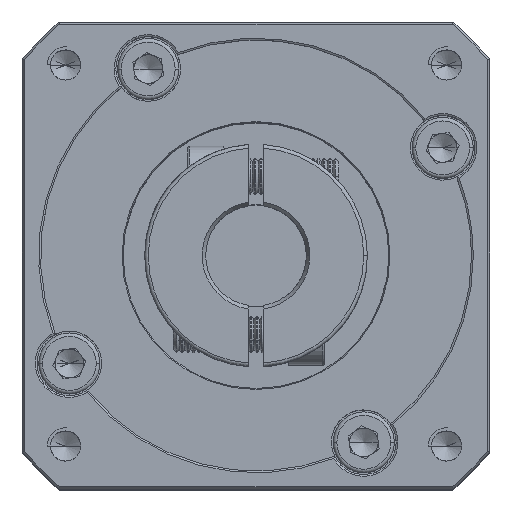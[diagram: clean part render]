
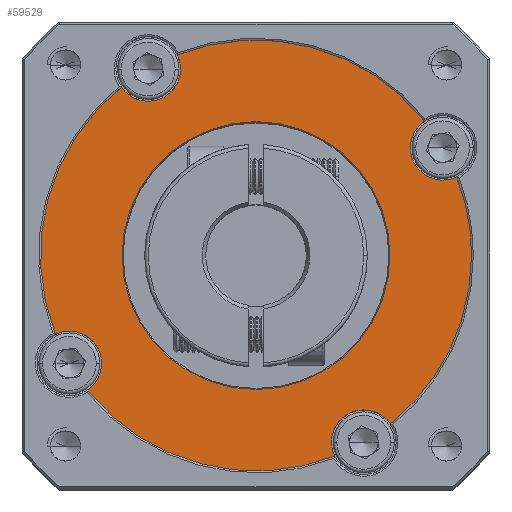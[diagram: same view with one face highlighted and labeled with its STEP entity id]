
A CAD part, top view. The second image highlights one B-rep face of the part: STEP entity #59529.
In plain terms, the highlighted planar face has unit normal (0, 0, 1).
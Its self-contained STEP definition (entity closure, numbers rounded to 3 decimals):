
#601 = VERTEX_POINT ( 'NONE', #96312 ) ;
#1448 = AXIS2_PLACEMENT_3D ( 'NONE', #22615, #81851, #31043 ) ;
#1845 = VERTEX_POINT ( 'NONE', #52218 ) ;
#2023 = EDGE_CURVE ( 'NONE', #29477, #79942, #91380, .T. ) ;
#3567 = CARTESIAN_POINT ( 'NONE',  ( -53.651, 39.886, 31.124 ) ) ;
#3653 = AXIS2_PLACEMENT_3D ( 'NONE', #3567, #62904, #12106 ) ;
#4628 = AXIS2_PLACEMENT_3D ( 'NONE', #75418, #24626, #83875 ) ;
#5073 = CIRCLE ( 'NONE', #29460, 4.5 ) ;
#5751 = DIRECTION ( 'NONE',  ( 0., 0., 1. ) ) ;
#8137 = DIRECTION ( 'NONE',  ( 0., 0., 1. ) ) ;
#11085 = CARTESIAN_POINT ( 'NONE',  ( -42.706, 11.954, 31.124 ) ) ;
#11442 = AXIS2_PLACEMENT_3D ( 'NONE', #16593, #75926, #25126 ) ;
#12106 = DIRECTION ( 'NONE',  ( 1., 0., 0. ) ) ;
#13304 = CIRCLE ( 'NONE', #83137, 4.5 ) ;
#14680 = CARTESIAN_POINT ( 'NONE',  ( -64.151, 65.867, 31.124 ) ) ;
#15265 = VERTEX_POINT ( 'NONE', #90781 ) ;
#15553 = CIRCLE ( 'NONE', #1448, 4.5 ) ;
#16530 = ORIENTED_EDGE ( 'NONE', *, *, #59345, .T. ) ;
#16593 = CARTESIAN_POINT ( 'NONE',  ( -53.651, 39.886, 31.124 ) ) ;
#17994 = AXIS2_PLACEMENT_3D ( 'NONE', #86319, #35565, #94807 ) ;
#19318 = ORIENTED_EDGE ( 'NONE', *, *, #2023, .F. ) ;
#20062 = VERTEX_POINT ( 'NONE', #101177 ) ;
#20287 = PLANE ( 'NONE',  #3653 ) ;
#20638 = VERTEX_POINT ( 'NONE', #40943 ) ;
#20746 = EDGE_CURVE ( 'NONE', #20638, #106895, #60833, .T. ) ;
#22615 = CARTESIAN_POINT ( 'NONE',  ( -79.631, 24.886, 31.124 ) ) ;
#23549 = AXIS2_PLACEMENT_3D ( 'NONE', #58983, #8137, #67523 ) ;
#24626 = DIRECTION ( 'NONE',  ( 0., 0., 1. ) ) ;
#25126 = DIRECTION ( 'NONE',  ( 1., 0., 0. ) ) ;
#26729 = VERTEX_POINT ( 'NONE', #14680 ) ;
#26969 = CARTESIAN_POINT ( 'NONE',  ( -27.67, 54.886, 31.124 ) ) ;
#27217 = CIRCLE ( 'NONE', #23549, 4.5 ) ;
#27637 = DIRECTION ( 'NONE',  ( 0., 0., 1. ) ) ;
#29316 = CARTESIAN_POINT ( 'NONE',  ( -68.651, 65.867, 31.124 ) ) ;
#29460 = AXIS2_PLACEMENT_3D ( 'NONE', #82043, #31231, #90490 ) ;
#29477 = VERTEX_POINT ( 'NONE', #57609 ) ;
#29715 = AXIS2_PLACEMENT_3D ( 'NONE', #31219, #90474, #39774 ) ;
#29843 = DIRECTION ( 'NONE',  ( 0., 0., 1. ) ) ;
#31043 = DIRECTION ( 'NONE',  ( 1., 0., 0. ) ) ;
#31219 = CARTESIAN_POINT ( 'NONE',  ( -53.651, 39.886, 31.124 ) ) ;
#31231 = DIRECTION ( 'NONE',  ( 0., 0., 1. ) ) ;
#31385 = AXIS2_PLACEMENT_3D ( 'NONE', #43910, #103050, #52453 ) ;
#32044 = EDGE_CURVE ( 'NONE', #20638, #93637, #59761, .T. ) ;
#33804 = CARTESIAN_POINT ( 'NONE',  ( -75.131, 24.886, 31.124 ) ) ;
#34424 = ORIENTED_EDGE ( 'NONE', *, *, #101568, .T. ) ;
#35280 = VERTEX_POINT ( 'NONE', #95623 ) ;
#35478 = DIRECTION ( 'NONE',  ( 1., 0., 0. ) ) ;
#35565 = DIRECTION ( 'NONE',  ( 0., 0., -1. ) ) ;
#35968 = CIRCLE ( 'NONE', #4628, 4.5 ) ;
#36934 = CARTESIAN_POINT ( 'NONE',  ( -38.651, 13.905, 31.124 ) ) ;
#37098 = ORIENTED_EDGE ( 'NONE', *, *, #20746, .T. ) ;
#37840 = DIRECTION ( 'NONE',  ( 1., 0., 0. ) ) ;
#39702 = FACE_OUTER_BOUND ( 'NONE', #95938, .T. ) ;
#39720 = AXIS2_PLACEMENT_3D ( 'NONE', #56582, #5751, #65110 ) ;
#39774 = DIRECTION ( 'NONE',  ( 1., 0., 0. ) ) ;
#40943 = CARTESIAN_POINT ( 'NONE',  ( -30.206, 58.603, 31.124 ) ) ;
#41566 = CIRCLE ( 'NONE', #17994, 18.644 ) ;
#43910 = CARTESIAN_POINT ( 'NONE',  ( -53.651, 39.886, 31.124 ) ) ;
#45535 = DIRECTION ( 'NONE',  ( 1., 0., 0. ) ) ;
#47048 = EDGE_CURVE ( 'NONE', #601, #1845, #41566, .T. ) ;
#48719 = CIRCLE ( 'NONE', #29715, 30. ) ;
#48721 = CARTESIAN_POINT ( 'NONE',  ( -53.651, 39.886, 31.124 ) ) ;
#49009 = EDGE_CURVE ( 'NONE', #95888, #79860, #15553, .T. ) ;
#49111 = ORIENTED_EDGE ( 'NONE', *, *, #104215, .F. ) ;
#49415 = CARTESIAN_POINT ( 'NONE',  ( -23.651, 39.886, 31.124 ) ) ;
#49442 = EDGE_CURVE ( 'NONE', #93637, #98987, #27217, .T. ) ;
#49701 = ORIENTED_EDGE ( 'NONE', *, *, #49009, .F. ) ;
#51859 = ORIENTED_EDGE ( 'NONE', *, *, #49442, .F. ) ;
#52218 = CARTESIAN_POINT ( 'NONE',  ( -72.295, 39.886, 31.124 ) ) ;
#52453 = DIRECTION ( 'NONE',  ( 1., 0., 0. ) ) ;
#52659 = ORIENTED_EDGE ( 'NONE', *, *, #90906, .F. ) ;
#52721 = ORIENTED_EDGE ( 'NONE', *, *, #32044, .F. ) ;
#54330 = ORIENTED_EDGE ( 'NONE', *, *, #66234, .F. ) ;
#55796 = ORIENTED_EDGE ( 'NONE', *, *, #95918, .T. ) ;
#56133 = ORIENTED_EDGE ( 'NONE', *, *, #76897, .T. ) ;
#56582 = CARTESIAN_POINT ( 'NONE',  ( -38.651, 13.905, 31.124 ) ) ;
#57242 = DIRECTION ( 'NONE',  ( 1., 0., 0. ) ) ;
#57609 = CARTESIAN_POINT ( 'NONE',  ( -43.151, 13.905, 31.124 ) ) ;
#58308 = AXIS2_PLACEMENT_3D ( 'NONE', #48721, #107897, #57242 ) ;
#58983 = CARTESIAN_POINT ( 'NONE',  ( -27.67, 54.886, 31.124 ) ) ;
#59345 = EDGE_CURVE ( 'NONE', #72632, #98987, #108704, .T. ) ;
#59529 = ADVANCED_FACE ( 'NONE', ( #104596, #39702 ), #20287, .T. ) ;
#59761 = CIRCLE ( 'NONE', #69675, 4.5 ) ;
#60501 = ORIENTED_EDGE ( 'NONE', *, *, #85265, .F. ) ;
#60833 = CIRCLE ( 'NONE', #31385, 30. ) ;
#61404 = AXIS2_PLACEMENT_3D ( 'NONE', #78529, #27637, #86901 ) ;
#62202 = CARTESIAN_POINT ( 'NONE',  ( -64.596, 67.818, 31.124 ) ) ;
#62850 = AXIS2_PLACEMENT_3D ( 'NONE', #80660, #29843, #89095 ) ;
#62904 = DIRECTION ( 'NONE',  ( 0., 0., 1. ) ) ;
#65110 = DIRECTION ( 'NONE',  ( 1., 0., 0. ) ) ;
#66234 = EDGE_CURVE ( 'NONE', #20062, #29477, #13304, .T. ) ;
#67523 = DIRECTION ( 'NONE',  ( 1., 0., 0. ) ) ;
#69675 = AXIS2_PLACEMENT_3D ( 'NONE', #26969, #86238, #35478 ) ;
#70339 = CARTESIAN_POINT ( 'NONE',  ( -25.719, 50.831, 31.124 ) ) ;
#72632 = VERTEX_POINT ( 'NONE', #49415 ) ;
#74403 = ORIENTED_EDGE ( 'NONE', *, *, #47048, .T. ) ;
#75192 = ORIENTED_EDGE ( 'NONE', *, *, #105864, .T. ) ;
#75418 = CARTESIAN_POINT ( 'NONE',  ( -79.631, 24.886, 31.124 ) ) ;
#75926 = DIRECTION ( 'NONE',  ( 0., 0., 1. ) ) ;
#76897 = EDGE_CURVE ( 'NONE', #95888, #79942, #48719, .T. ) ;
#78450 = CIRCLE ( 'NONE', #61404, 30. ) ;
#78529 = CARTESIAN_POINT ( 'NONE',  ( -53.651, 39.886, 31.124 ) ) ;
#79860 = VERTEX_POINT ( 'NONE', #33804 ) ;
#79942 = VERTEX_POINT ( 'NONE', #11085 ) ;
#80660 = CARTESIAN_POINT ( 'NONE',  ( -53.651, 39.886, 31.124 ) ) ;
#80840 = AXIS2_PLACEMENT_3D ( 'NONE', #29316, #88568, #37840 ) ;
#81427 = CARTESIAN_POINT ( 'NONE',  ( -32.17, 54.886, 31.124 ) ) ;
#81851 = DIRECTION ( 'NONE',  ( 0., 0., 1. ) ) ;
#82043 = CARTESIAN_POINT ( 'NONE',  ( -68.651, 65.867, 31.124 ) ) ;
#83137 = AXIS2_PLACEMENT_3D ( 'NONE', #36934, #96161, #45535 ) ;
#83875 = DIRECTION ( 'NONE',  ( 1., 0., 0. ) ) ;
#84630 = CIRCLE ( 'NONE', #58308, 18.644 ) ;
#85265 = EDGE_CURVE ( 'NONE', #79860, #35280, #35968, .T. ) ;
#86238 = DIRECTION ( 'NONE',  ( 0., 0., 1. ) ) ;
#86319 = CARTESIAN_POINT ( 'NONE',  ( -53.651, 39.886, 31.124 ) ) ;
#86901 = DIRECTION ( 'NONE',  ( 1., 0., 0. ) ) ;
#88568 = DIRECTION ( 'NONE',  ( 0., 0., 1. ) ) ;
#89095 = DIRECTION ( 'NONE',  ( 1., 0., 0. ) ) ;
#90474 = DIRECTION ( 'NONE',  ( 0., 0., 1. ) ) ;
#90490 = DIRECTION ( 'NONE',  ( 1., 0., 0. ) ) ;
#90781 = CARTESIAN_POINT ( 'NONE',  ( -72.368, 63.331, 31.124 ) ) ;
#90906 = EDGE_CURVE ( 'NONE', #26729, #106895, #5073, .T. ) ;
#91380 = CIRCLE ( 'NONE', #39720, 4.5 ) ;
#93201 = CIRCLE ( 'NONE', #80840, 4.5 ) ;
#93637 = VERTEX_POINT ( 'NONE', #81427 ) ;
#94167 = EDGE_LOOP ( 'NONE', ( #74403, #75192 ) ) ;
#94807 = DIRECTION ( 'NONE',  ( 1., 0., 0. ) ) ;
#95623 = CARTESIAN_POINT ( 'NONE',  ( -81.583, 28.941, 31.124 ) ) ;
#95796 = CARTESIAN_POINT ( 'NONE',  ( -77.095, 21.169, 31.124 ) ) ;
#95888 = VERTEX_POINT ( 'NONE', #95796 ) ;
#95918 = EDGE_CURVE ( 'NONE', #20062, #72632, #101971, .T. ) ;
#95938 = EDGE_LOOP ( 'NONE', ( #49701, #56133, #19318, #54330, #55796, #16530, #51859, #52721, #37098, #52659, #49111, #34424, #60501 ) ) ;
#96161 = DIRECTION ( 'NONE',  ( 0., 0., 1. ) ) ;
#96312 = CARTESIAN_POINT ( 'NONE',  ( -35.006, 39.886, 31.124 ) ) ;
#98987 = VERTEX_POINT ( 'NONE', #70339 ) ;
#101177 = CARTESIAN_POINT ( 'NONE',  ( -34.933, 16.441, 31.124 ) ) ;
#101568 = EDGE_CURVE ( 'NONE', #15265, #35280, #78450, .T. ) ;
#101971 = CIRCLE ( 'NONE', #62850, 30. ) ;
#103050 = DIRECTION ( 'NONE',  ( 0., 0., 1. ) ) ;
#104215 = EDGE_CURVE ( 'NONE', #15265, #26729, #93201, .T. ) ;
#104596 = FACE_BOUND ( 'NONE', #94167, .T. ) ;
#105864 = EDGE_CURVE ( 'NONE', #1845, #601, #84630, .T. ) ;
#106895 = VERTEX_POINT ( 'NONE', #62202 ) ;
#107897 = DIRECTION ( 'NONE',  ( 0., 0., -1. ) ) ;
#108704 = CIRCLE ( 'NONE', #11442, 30. ) ;
